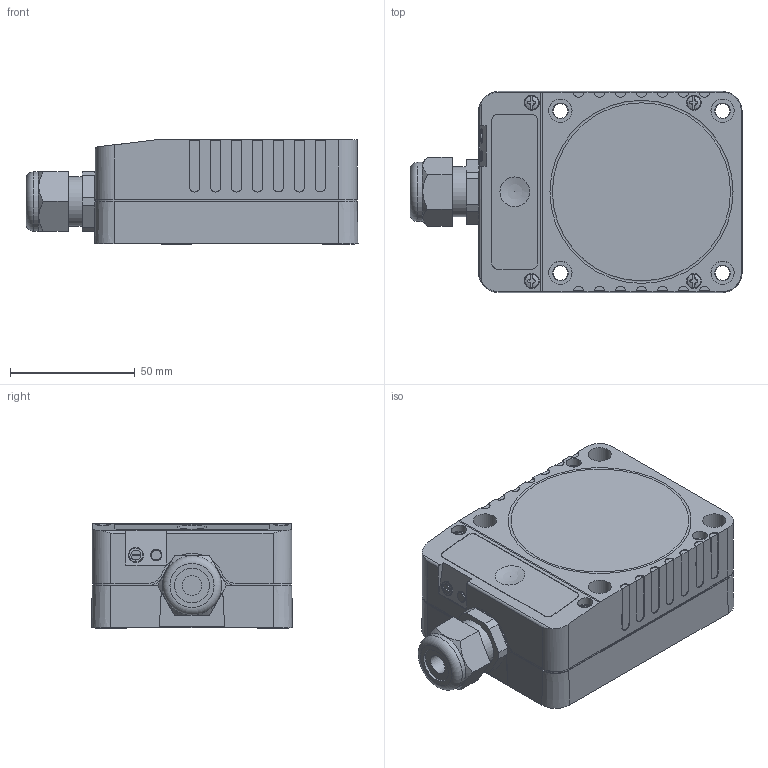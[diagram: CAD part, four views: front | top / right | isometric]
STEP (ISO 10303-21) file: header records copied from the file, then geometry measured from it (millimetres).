
FILE_DESCRIPTION( ( 'STEP AP203' ), '1' );
FILE_NAME( '//expscmdclustefs.cadenas.external/client_exchange/iodir/jobs/output/wkb81177076_no0/STEP/ID002A_2_03.stp', ' ', ( ' ' ), ( ' ' ), 'PSStep 15.0.47', 'PARTsolutions', ' ' );
FILE_SCHEMA( ( 'CONFIG_CONTROL_DESIGN' ) );
Length unit declared in the file: millimetre
Products named in the file (1): _ID002A
Bounding box: 133.09 x 80.59 x 42 mm (x, y, z)
Volume: 305104.8 mm3; surface area: 56407.3 mm2
Topology: 1 solids, 1 shells, 536 faces, 1396 edges, 914 vertices
Faces by surface type: plane 303, cylinder 196, cone 24, sphere 10, torus 3
Full cylindrical faces by diameter (mm): 2.5 x4, 3.2 x4, 4 x1, 5.5 x4, 5.6 x4, 5.8 x4, 5.9 x4, 6 x5, 6.8 x4, 8 x1, 9.3 x4, 9.4 x4, 13 x2, 14 x1, 15 x1, 18.16 x1, 20 x1, 23.713 x1
Entity records: 16313 total; most frequent: CARTESIAN_POINT 3042, DIRECTION 2833, ORIENTED_EDGE 2628, EDGE_CURVE 1314, AXIS2_PLACEMENT_3D 1014, VERTEX_POINT 905, LINE 805, VECTOR 805
